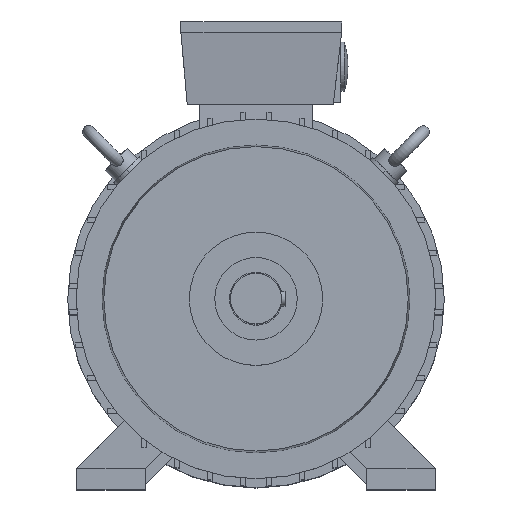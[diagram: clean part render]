
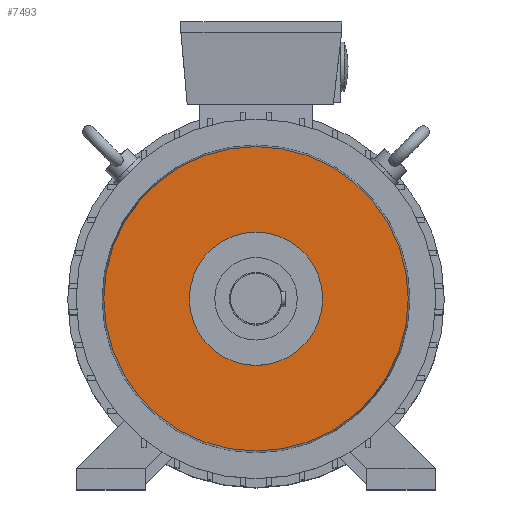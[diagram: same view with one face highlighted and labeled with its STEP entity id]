
A CAD part, top view. The second image highlights one B-rep face of the part: STEP entity #7493.
In plain terms, the highlighted planar face has unit normal (0, 0, 1).
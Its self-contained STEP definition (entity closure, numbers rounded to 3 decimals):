
#1287=CARTESIAN_POINT('',(0.,0.,60.));
#1288=DIRECTION('',(0.,0.,1.));
#1289=DIRECTION('',(1.,0.,0.));
#1290=AXIS2_PLACEMENT_3D('',#1287,#1288,#1289);
#1292=CARTESIAN_POINT('',(0.,0.,60.));
#1293=DIRECTION('',(0.,0.,1.));
#1294=DIRECTION('',(-1.,0.,0.));
#1295=AXIS2_PLACEMENT_3D('',#1292,#1293,#1294);
#1297=CARTESIAN_POINT('',(0.,0.,60.));
#1298=DIRECTION('',(0.,0.,1.));
#1299=DIRECTION('',(1.,0.,0.));
#1300=AXIS2_PLACEMENT_3D('',#1297,#1298,#1299);
#1302=CARTESIAN_POINT('',(0.,0.,60.));
#1303=DIRECTION('',(0.,0.,1.));
#1304=DIRECTION('',(-1.,0.,0.));
#1305=AXIS2_PLACEMENT_3D('',#1302,#1303,#1304);
#5249=CARTESIAN_POINT('',(143.859,0.,60.));
#5250=CARTESIAN_POINT('',(-143.859,0.,60.));
#5251=VERTEX_POINT('',#5249);
#5252=VERTEX_POINT('',#5250);
#5257=CARTESIAN_POINT('',(63.,0.,60.));
#5258=CARTESIAN_POINT('',(-63.,0.,60.));
#5259=VERTEX_POINT('',#5257);
#5260=VERTEX_POINT('',#5258);
#7478=CARTESIAN_POINT('',(0.,0.,60.));
#7479=DIRECTION('',(0.,0.,1.));
#7480=DIRECTION('',(1.,0.,0.));
#7481=AXIS2_PLACEMENT_3D('',#7478,#7479,#7480);
#7482=PLANE('',#7481);
#7483=ORIENTED_EDGE('',*,*,#7458,.F.);
#7484=ORIENTED_EDGE('',*,*,#7472,.F.);
#7485=EDGE_LOOP('',(#7483,#7484));
#7486=FACE_OUTER_BOUND('',#7485,.F.);
#7488=ORIENTED_EDGE('',*,*,#7487,.T.);
#7490=ORIENTED_EDGE('',*,*,#7489,.T.);
#7491=EDGE_LOOP('',(#7488,#7490));
#7492=FACE_BOUND('',#7491,.F.);
#7493=ADVANCED_FACE('',(#7486,#7492),#7482,.T.);
#1291=CIRCLE('',#1290,143.859);
#1296=CIRCLE('',#1295,143.859);
#1301=CIRCLE('',#1300,63.);
#1306=CIRCLE('',#1305,63.);
#7458=EDGE_CURVE('',#5251,#5252,#1291,.T.);
#7472=EDGE_CURVE('',#5252,#5251,#1296,.T.);
#7487=EDGE_CURVE('',#5259,#5260,#1301,.T.);
#7489=EDGE_CURVE('',#5260,#5259,#1306,.T.);
